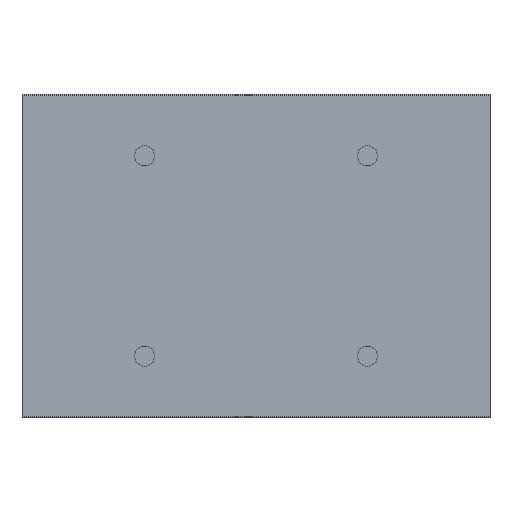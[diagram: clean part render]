
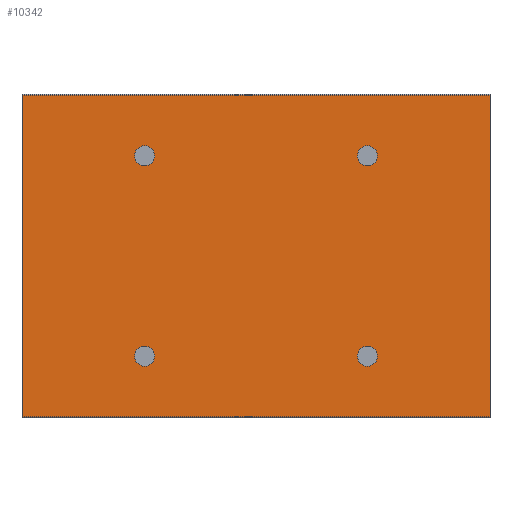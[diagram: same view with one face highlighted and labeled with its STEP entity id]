
A CAD part, front view. The second image highlights one B-rep face of the part: STEP entity #10342.
In plain terms, the highlighted planar face has unit normal (0, -1, 0).
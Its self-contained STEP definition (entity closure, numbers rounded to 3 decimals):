
#336=CIRCLE('',#10948,4.5);
#337=CIRCLE('',#10949,4.5);
#338=CIRCLE('',#10950,4.5);
#339=CIRCLE('',#10951,4.5);
#1036=ORIENTED_EDGE('',*,*,#4229,.T.);
#1037=ORIENTED_EDGE('',*,*,#4230,.F.);
#1038=ORIENTED_EDGE('',*,*,#4231,.F.);
#1039=ORIENTED_EDGE('',*,*,#4232,.F.);
#1040=ORIENTED_EDGE('',*,*,#4183,.T.);
#1041=ORIENTED_EDGE('',*,*,#4233,.F.);
#1042=ORIENTED_EDGE('',*,*,#4234,.F.);
#1043=ORIENTED_EDGE('',*,*,#4227,.T.);
#4183=EDGE_CURVE('',#5786,#5785,#6851,.T.);
#4227=EDGE_CURVE('',#5820,#5786,#6895,.T.);
#4229=EDGE_CURVE('',#5821,#5821,#336,.T.);
#4230=EDGE_CURVE('',#5822,#5822,#337,.T.);
#4231=EDGE_CURVE('',#5823,#5823,#338,.T.);
#4232=EDGE_CURVE('',#5824,#5824,#339,.T.);
#4233=EDGE_CURVE('',#5825,#5785,#6897,.T.);
#4234=EDGE_CURVE('',#5820,#5825,#6898,.T.);
#5785=VERTEX_POINT('',#15574);
#5786=VERTEX_POINT('',#15576);
#5820=VERTEX_POINT('',#15661);
#5821=VERTEX_POINT('',#15665);
#5822=VERTEX_POINT('',#15667);
#5823=VERTEX_POINT('',#15669);
#5824=VERTEX_POINT('',#15671);
#5825=VERTEX_POINT('',#15673);
#6851=LINE('',#15575,#7839);
#6895=LINE('',#15660,#7883);
#6897=LINE('',#15672,#7885);
#6898=LINE('',#15674,#7886);
#7839=VECTOR('',#12170,1000.);
#7883=VECTOR('',#12228,1000.);
#7885=VECTOR('',#12240,1000.);
#7886=VECTOR('',#12241,1000.);
#8809=EDGE_LOOP('',(#1036));
#8810=EDGE_LOOP('',(#1037));
#8811=EDGE_LOOP('',(#1038));
#8812=EDGE_LOOP('',(#1039));
#8813=EDGE_LOOP('',(#1040,#1041,#1042,#1043));
#9439=FACE_BOUND('',#8809,.T.);
#9440=FACE_BOUND('',#8810,.T.);
#9441=FACE_BOUND('',#8811,.T.);
#9442=FACE_BOUND('',#8812,.T.);
#9443=FACE_BOUND('',#8813,.T.);
#10069=PLANE('',#10947);
#10342=ADVANCED_FACE('',(#9439,#9440,#9441,#9442,#9443),#10069,.F.);
#10947=AXIS2_PLACEMENT_3D('',#15663,#12230,#12231);
#10948=AXIS2_PLACEMENT_3D('',#15664,#12232,#12233);
#10949=AXIS2_PLACEMENT_3D('',#15666,#12234,#12235);
#10950=AXIS2_PLACEMENT_3D('',#15668,#12236,#12237);
#10951=AXIS2_PLACEMENT_3D('',#15670,#12238,#12239);
#12170=DIRECTION('',(0.,0.,-1.));
#12228=DIRECTION('',(-1.,0.,0.));
#12230=DIRECTION('',(0.,1.,0.));
#12231=DIRECTION('',(0.,0.,1.));
#12232=DIRECTION('',(0.,1.,0.));
#12233=DIRECTION('',(0.,0.,1.));
#12234=DIRECTION('',(0.,-1.,0.));
#12235=DIRECTION('',(0.,0.,-1.));
#12236=DIRECTION('',(0.,-1.,0.));
#12237=DIRECTION('',(0.,0.,-1.));
#12238=DIRECTION('',(0.,-1.,0.));
#12239=DIRECTION('',(0.,0.,-1.));
#12240=DIRECTION('',(-1.,0.,0.));
#12241=DIRECTION('',(0.,0.,-1.));
#15574=CARTESIAN_POINT('',(0.,0.,-72.2));
#15575=CARTESIAN_POINT('',(0.,0.,72.2));
#15576=CARTESIAN_POINT('',(0.,0.,72.2));
#15660=CARTESIAN_POINT('',(210.,0.,72.2));
#15661=CARTESIAN_POINT('',(210.,0.,72.2));
#15663=CARTESIAN_POINT('',(210.,0.,72.2));
#15664=CARTESIAN_POINT('',(155.,0.,45.));
#15665=CARTESIAN_POINT('',(155.,0.,49.5));
#15666=CARTESIAN_POINT('',(155.,0.,-45.));
#15667=CARTESIAN_POINT('',(155.,0.,-49.5));
#15668=CARTESIAN_POINT('',(55.,0.,-45.));
#15669=CARTESIAN_POINT('',(55.,0.,-49.5));
#15670=CARTESIAN_POINT('',(55.,0.,45.));
#15671=CARTESIAN_POINT('',(55.,0.,40.5));
#15672=CARTESIAN_POINT('',(210.,0.,-72.2));
#15673=CARTESIAN_POINT('',(210.,0.,-72.2));
#15674=CARTESIAN_POINT('',(210.,0.,72.2));
